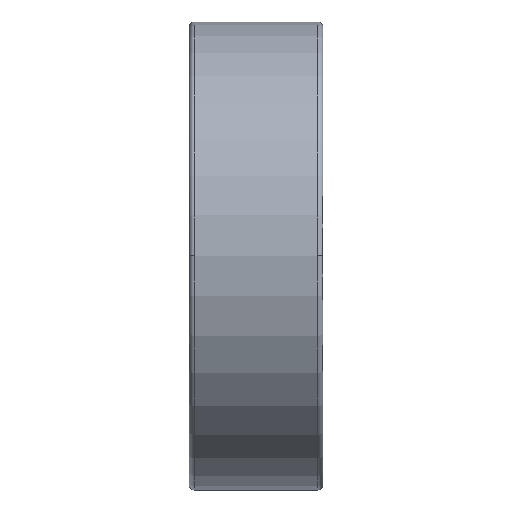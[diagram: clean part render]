
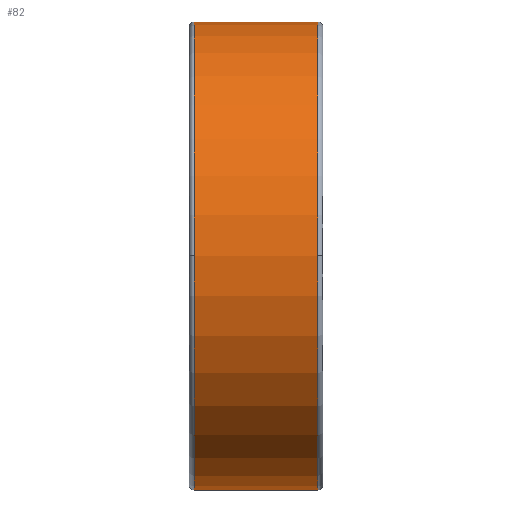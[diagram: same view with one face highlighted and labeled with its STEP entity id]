
A CAD part, top view. The second image highlights one B-rep face of the part: STEP entity #82.
In plain terms, the highlighted cylindrical face has radius 14 mm (diameter 28 mm), a partial arc.
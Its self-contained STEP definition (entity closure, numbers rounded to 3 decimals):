
#82=ADVANCED_FACE('',(#183),#184,.T.);
#183=FACE_OUTER_BOUND('',#391,.T.);
#184=CYLINDRICAL_SURFACE('',#392,14.0);
#391=EDGE_LOOP('',(#623,#624,#625,#626,#627,#628));
#392=AXIS2_PLACEMENT_3D('',#629,#630,#631);
#623=ORIENTED_EDGE('',*,*,#1333,.F.);
#624=ORIENTED_EDGE('',*,*,#1334,.T.);
#625=ORIENTED_EDGE('',*,*,#1335,.T.);
#626=ORIENTED_EDGE('',*,*,#1336,.F.);
#627=ORIENTED_EDGE('',*,*,#1337,.F.);
#628=ORIENTED_EDGE('',*,*,#1329,.F.);
#629=CARTESIAN_POINT('',(4.0,0.0,0.0));
#630=DIRECTION('',(1.0,0.0,0.0));
#631=DIRECTION('',(0.0,1.0,0.0));
#1329=EDGE_CURVE('',#1558,#1560,#1561,.T.);
#1333=EDGE_CURVE('',#1567,#1558,#1568,.T.);
#1334=EDGE_CURVE('',#1567,#1569,#1570,.T.);
#1335=EDGE_CURVE('',#1569,#1571,#1572,.T.);
#1336=EDGE_CURVE('',#1573,#1571,#1574,.T.);
#1337=EDGE_CURVE('',#1560,#1573,#1575,.T.);
#1558=VERTEX_POINT('',#1916);
#1560=VERTEX_POINT('',#1918);
#1561=CIRCLE('',#1919,14.0);
#1567=VERTEX_POINT('',#1925);
#1568=LINE('',#1926,#1927);
#1569=VERTEX_POINT('',#1928);
#1570=CIRCLE('',#1929,14.0);
#1571=VERTEX_POINT('',#1930);
#1572=CIRCLE('',#1931,14.0);
#1573=VERTEX_POINT('',#1932);
#1574=LINE('',#1933,#1934);
#1575=CIRCLE('',#1935,14.0);
#1916=CARTESIAN_POINT('',(7.7,14.0,0.0));
#1918=CARTESIAN_POINT('',(7.7,0.,14.0));
#1919=AXIS2_PLACEMENT_3D('',#2335,#2336,#2337);
#1925=CARTESIAN_POINT('',(0.3,14.0,0.0));
#1926=CARTESIAN_POINT('',(4.0,14.0,0.));
#1927=VECTOR('',#2347,1.0);
#1928=CARTESIAN_POINT('',(0.3,0.,14.0));
#1929=AXIS2_PLACEMENT_3D('',#2348,#2349,#2350);
#1930=CARTESIAN_POINT('',(0.3,-14.0,0.));
#1931=AXIS2_PLACEMENT_3D('',#2351,#2352,#2353);
#1932=CARTESIAN_POINT('',(7.7,-14.0,0.));
#1933=CARTESIAN_POINT('',(4.0,-14.0,0.));
#1934=VECTOR('',#2354,1.0);
#1935=AXIS2_PLACEMENT_3D('',#2355,#2356,#2357);
#2335=CARTESIAN_POINT('',(7.7,0.0,0.0));
#2336=DIRECTION('',(1.0,0.0,0.0));
#2337=DIRECTION('',(0.0,1.0,0.0));
#2347=DIRECTION('',(1.0,0.0,0.0));
#2348=CARTESIAN_POINT('',(0.3,0.0,0.0));
#2349=DIRECTION('',(1.0,0.0,0.0));
#2350=DIRECTION('',(0.0,1.0,0.0));
#2351=CARTESIAN_POINT('',(0.3,0.0,0.0));
#2352=DIRECTION('',(1.0,0.0,0.0));
#2353=DIRECTION('',(0.0,1.0,0.0));
#2354=DIRECTION('',(-1.0,-0.0,-0.0));
#2355=CARTESIAN_POINT('',(7.7,0.0,0.0));
#2356=DIRECTION('',(1.0,0.0,0.0));
#2357=DIRECTION('',(0.0,1.0,0.0));
